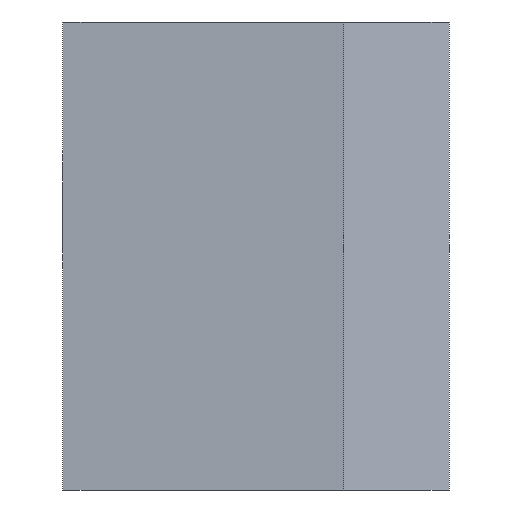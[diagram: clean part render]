
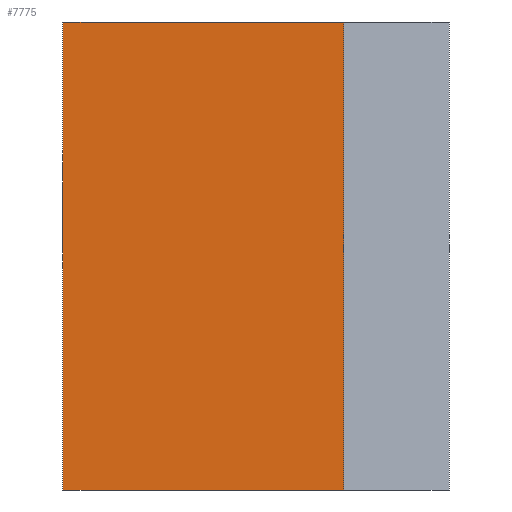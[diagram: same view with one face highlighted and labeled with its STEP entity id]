
A CAD part, front view. The second image highlights one B-rep face of the part: STEP entity #7775.
In plain terms, the highlighted planar face has unit normal (0, -1, 0).
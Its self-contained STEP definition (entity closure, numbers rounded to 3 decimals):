
#44 = PLANE('',#45);
#45 = AXIS2_PLACEMENT_3D('',#46,#47,#48);
#46 = CARTESIAN_POINT('',(-11.25,-6.183,93.5));
#47 = DIRECTION('',(-1.,0.,0.));
#48 = DIRECTION('',(0.,1.,0.));
#72 = PLANE('',#73);
#73 = AXIS2_PLACEMENT_3D('',#74,#75,#76);
#74 = CARTESIAN_POINT('',(-6.539,50.564,103.5));
#75 = DIRECTION('',(-0.,0.,-1.));
#76 = DIRECTION('',(0.,1.,0.));
#126 = PLANE('',#127);
#127 = AXIS2_PLACEMENT_3D('',#128,#129,#130);
#128 = CARTESIAN_POINT('',(-6.539,50.564,93.5));
#129 = DIRECTION('',(-0.,0.,-1.));
#130 = DIRECTION('',(0.,1.,0.));
#141 = EDGE_CURVE('',#142,#144,#146,.T.);
#142 = VERTEX_POINT('',#143);
#143 = CARTESIAN_POINT('',(-11.25,-6.183,93.5));
#144 = VERTEX_POINT('',#145);
#145 = CARTESIAN_POINT('',(-11.25,-6.183,103.5));
#146 = SURFACE_CURVE('',#147,(#151,#158),.PCURVE_S1.);
#147 = LINE('',#148,#149);
#148 = CARTESIAN_POINT('',(-11.25,-6.183,93.5));
#149 = VECTOR('',#150,1.);
#150 = DIRECTION('',(0.,0.,1.));
#151 = PCURVE('',#44,#152);
#152 = DEFINITIONAL_REPRESENTATION('',(#153),#157);
#153 = LINE('',#154,#155);
#154 = CARTESIAN_POINT('',(0.,-0.));
#155 = VECTOR('',#156,1.);
#156 = DIRECTION('',(0.,-1.));
#157 = ( GEOMETRIC_REPRESENTATION_CONTEXT(2) 
PARAMETRIC_REPRESENTATION_CONTEXT() REPRESENTATION_CONTEXT('2D SPACE',''
  ) );
#158 = PCURVE('',#159,#164);
#159 = PLANE('',#160);
#160 = AXIS2_PLACEMENT_3D('',#161,#162,#163);
#161 = CARTESIAN_POINT('',(-5.25,-6.183,93.5));
#162 = DIRECTION('',(0.,-1.,0.));
#163 = DIRECTION('',(-1.,0.,0.));
#164 = DEFINITIONAL_REPRESENTATION('',(#165),#169);
#165 = LINE('',#166,#167);
#166 = CARTESIAN_POINT('',(6.,0.));
#167 = VECTOR('',#168,1.);
#168 = DIRECTION('',(0.,-1.));
#169 = ( GEOMETRIC_REPRESENTATION_CONTEXT(2) 
PARAMETRIC_REPRESENTATION_CONTEXT() REPRESENTATION_CONTEXT('2D SPACE',''
  ) );
#4388 = VERTEX_POINT('',#4389);
#4389 = CARTESIAN_POINT('',(-5.25,-6.183,93.5));
#4403 = PLANE('',#4404);
#4404 = AXIS2_PLACEMENT_3D('',#4405,#4406,#4407);
#4405 = CARTESIAN_POINT('',(-5.25,-5.553,93.5));
#4406 = DIRECTION('',(1.,0.,0.));
#4407 = DIRECTION('',(0.,-1.,0.));
#4415 = EDGE_CURVE('',#4388,#142,#4416,.T.);
#4416 = SURFACE_CURVE('',#4417,(#4421,#4428),.PCURVE_S1.);
#4417 = LINE('',#4418,#4419);
#4418 = CARTESIAN_POINT('',(-5.25,-6.183,93.5));
#4419 = VECTOR('',#4420,1.);
#4420 = DIRECTION('',(-1.,0.,0.));
#4421 = PCURVE('',#126,#4422);
#4422 = DEFINITIONAL_REPRESENTATION('',(#4423),#4427);
#4423 = LINE('',#4424,#4425);
#4424 = CARTESIAN_POINT('',(-56.747,1.289));
#4425 = VECTOR('',#4426,1.);
#4426 = DIRECTION('',(0.,-1.));
#4427 = ( GEOMETRIC_REPRESENTATION_CONTEXT(2) 
PARAMETRIC_REPRESENTATION_CONTEXT() REPRESENTATION_CONTEXT('2D SPACE',''
  ) );
#4428 = PCURVE('',#159,#4429);
#4429 = DEFINITIONAL_REPRESENTATION('',(#4430),#4434);
#4430 = LINE('',#4431,#4432);
#4431 = CARTESIAN_POINT('',(0.,0.));
#4432 = VECTOR('',#4433,1.);
#4433 = DIRECTION('',(1.,0.));
#4434 = ( GEOMETRIC_REPRESENTATION_CONTEXT(2) 
PARAMETRIC_REPRESENTATION_CONTEXT() REPRESENTATION_CONTEXT('2D SPACE',''
  ) );
#7732 = VERTEX_POINT('',#7733);
#7733 = CARTESIAN_POINT('',(-5.25,-6.183,103.5));
#7754 = EDGE_CURVE('',#7732,#144,#7755,.T.);
#7755 = SURFACE_CURVE('',#7756,(#7760,#7767),.PCURVE_S1.);
#7756 = LINE('',#7757,#7758);
#7757 = CARTESIAN_POINT('',(-5.25,-6.183,103.5));
#7758 = VECTOR('',#7759,1.);
#7759 = DIRECTION('',(-1.,0.,0.));
#7760 = PCURVE('',#72,#7761);
#7761 = DEFINITIONAL_REPRESENTATION('',(#7762),#7766);
#7762 = LINE('',#7763,#7764);
#7763 = CARTESIAN_POINT('',(-56.747,1.289));
#7764 = VECTOR('',#7765,1.);
#7765 = DIRECTION('',(0.,-1.));
#7766 = ( GEOMETRIC_REPRESENTATION_CONTEXT(2) 
PARAMETRIC_REPRESENTATION_CONTEXT() REPRESENTATION_CONTEXT('2D SPACE',''
  ) );
#7767 = PCURVE('',#159,#7768);
#7768 = DEFINITIONAL_REPRESENTATION('',(#7769),#7773);
#7769 = LINE('',#7770,#7771);
#7770 = CARTESIAN_POINT('',(0.,-10.));
#7771 = VECTOR('',#7772,1.);
#7772 = DIRECTION('',(1.,0.));
#7773 = ( GEOMETRIC_REPRESENTATION_CONTEXT(2) 
PARAMETRIC_REPRESENTATION_CONTEXT() REPRESENTATION_CONTEXT('2D SPACE',''
  ) );
#7775 = ADVANCED_FACE('',(#7776),#159,.T.);
#7776 = FACE_BOUND('',#7777,.T.);
#7777 = EDGE_LOOP('',(#7778,#7799,#7800,#7801));
#7778 = ORIENTED_EDGE('',*,*,#7779,.T.);
#7779 = EDGE_CURVE('',#4388,#7732,#7780,.T.);
#7780 = SURFACE_CURVE('',#7781,(#7785,#7792),.PCURVE_S1.);
#7781 = LINE('',#7782,#7783);
#7782 = CARTESIAN_POINT('',(-5.25,-6.183,93.5));
#7783 = VECTOR('',#7784,1.);
#7784 = DIRECTION('',(0.,0.,1.));
#7785 = PCURVE('',#159,#7786);
#7786 = DEFINITIONAL_REPRESENTATION('',(#7787),#7791);
#7787 = LINE('',#7788,#7789);
#7788 = CARTESIAN_POINT('',(0.,0.));
#7789 = VECTOR('',#7790,1.);
#7790 = DIRECTION('',(0.,-1.));
#7791 = ( GEOMETRIC_REPRESENTATION_CONTEXT(2) 
PARAMETRIC_REPRESENTATION_CONTEXT() REPRESENTATION_CONTEXT('2D SPACE',''
  ) );
#7792 = PCURVE('',#4403,#7793);
#7793 = DEFINITIONAL_REPRESENTATION('',(#7794),#7798);
#7794 = LINE('',#7795,#7796);
#7795 = CARTESIAN_POINT('',(0.63,0.));
#7796 = VECTOR('',#7797,1.);
#7797 = DIRECTION('',(0.,-1.));
#7798 = ( GEOMETRIC_REPRESENTATION_CONTEXT(2) 
PARAMETRIC_REPRESENTATION_CONTEXT() REPRESENTATION_CONTEXT('2D SPACE',''
  ) );
#7799 = ORIENTED_EDGE('',*,*,#7754,.T.);
#7800 = ORIENTED_EDGE('',*,*,#141,.F.);
#7801 = ORIENTED_EDGE('',*,*,#4415,.F.);
